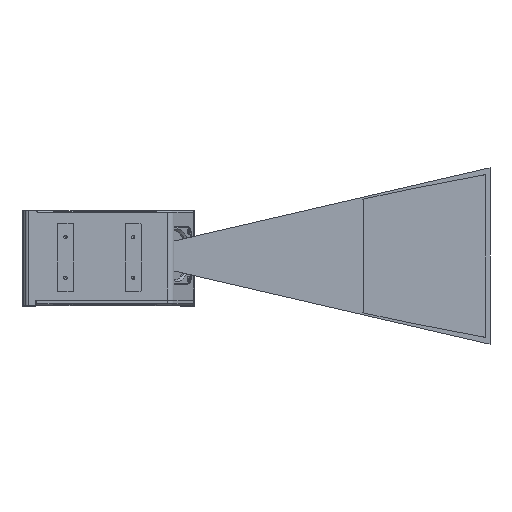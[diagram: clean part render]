
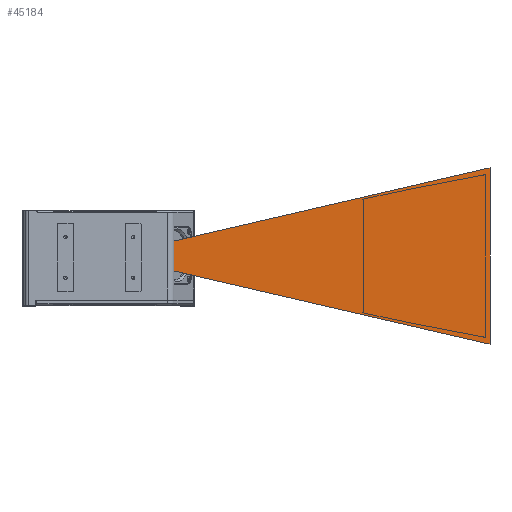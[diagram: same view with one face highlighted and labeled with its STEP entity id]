
A CAD part, left-side view. The second image highlights one B-rep face of the part: STEP entity #45184.
In plain terms, the highlighted planar face has unit normal (-1, 0, 0).
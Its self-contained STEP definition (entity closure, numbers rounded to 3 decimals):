
#1312 = CARTESIAN_POINT ( 'NONE',  ( 12.551, 12.844, 27.534 ) ) ;
#6920 = LINE ( 'NONE', #30298, #24045 ) ;
#7593 = VERTEX_POINT ( 'NONE', #84197 ) ;
#8123 = CARTESIAN_POINT ( 'NONE',  ( 12.551, -235.156, 100.034 ) ) ;
#10296 = FACE_OUTER_BOUND ( 'NONE', #20772, .T. ) ;
#11800 = PLANE ( 'NONE',  #96981 ) ;
#12858 = CARTESIAN_POINT ( 'NONE',  ( 12.551, 12.844, 42.534 ) ) ;
#15642 = VERTEX_POINT ( 'NONE', #8123 ) ;
#17044 = DIRECTION ( 'NONE',  ( 0., 0.974, -0.226 ) ) ;
#18069 = CARTESIAN_POINT ( 'NONE',  ( 12.551, -235.156, 100.034 ) ) ;
#20772 = EDGE_LOOP ( 'NONE', ( #66535, #43325, #86326, #33487 ) ) ;
#21864 = VECTOR ( 'NONE', #43621, 1000. ) ;
#24045 = VECTOR ( 'NONE', #37879, 1000. ) ;
#24846 = VECTOR ( 'NONE', #17044, 1000. ) ;
#25601 = CARTESIAN_POINT ( 'NONE',  ( 12.551, 12.844, 42.534 ) ) ;
#27020 = DIRECTION ( 'NONE',  ( 0., 0., 1. ) ) ;
#30298 = CARTESIAN_POINT ( 'NONE',  ( 12.551, 12.844, 27.534 ) ) ;
#32363 = VERTEX_POINT ( 'NONE', #1312 ) ;
#32849 = VECTOR ( 'NONE', #36204, 1000. ) ;
#33487 = ORIENTED_EDGE ( 'NONE', *, *, #73170, .T. ) ;
#36204 = DIRECTION ( 'NONE',  ( 0., 0., -1. ) ) ;
#37297 = EDGE_CURVE ( 'NONE', #7593, #15642, #42606, .T. ) ;
#37879 = DIRECTION ( 'NONE',  ( 0., -0.974, -0.226 ) ) ;
#42606 = LINE ( 'NONE', #43119, #21864 ) ;
#43119 = CARTESIAN_POINT ( 'NONE',  ( 12.551, -235.156, -29.966 ) ) ;
#43325 = ORIENTED_EDGE ( 'NONE', *, *, #64121, .T. ) ;
#43621 = DIRECTION ( 'NONE',  ( 0., 0., 1. ) ) ;
#45184 = ADVANCED_FACE ( 'NONE', ( #10296 ), #11800, .T. ) ;
#48065 = EDGE_CURVE ( 'NONE', #95900, #32363, #96543, .T. ) ;
#49318 = CARTESIAN_POINT ( 'NONE',  ( 12.551, -17.156, 2.534 ) ) ;
#56958 = DIRECTION ( 'NONE',  ( -1., 0., 0. ) ) ;
#64121 = EDGE_CURVE ( 'NONE', #32363, #7593, #6920, .T. ) ;
#66535 = ORIENTED_EDGE ( 'NONE', *, *, #48065, .T. ) ;
#69797 = LINE ( 'NONE', #18069, #24846 ) ;
#73170 = EDGE_CURVE ( 'NONE', #15642, #95900, #69797, .T. ) ;
#84197 = CARTESIAN_POINT ( 'NONE',  ( 12.551, -235.156, -29.966 ) ) ;
#86326 = ORIENTED_EDGE ( 'NONE', *, *, #37297, .T. ) ;
#95900 = VERTEX_POINT ( 'NONE', #25601 ) ;
#96543 = LINE ( 'NONE', #12858, #32849 ) ;
#96981 = AXIS2_PLACEMENT_3D ( 'NONE', #49318, #56958, #27020 ) ;
